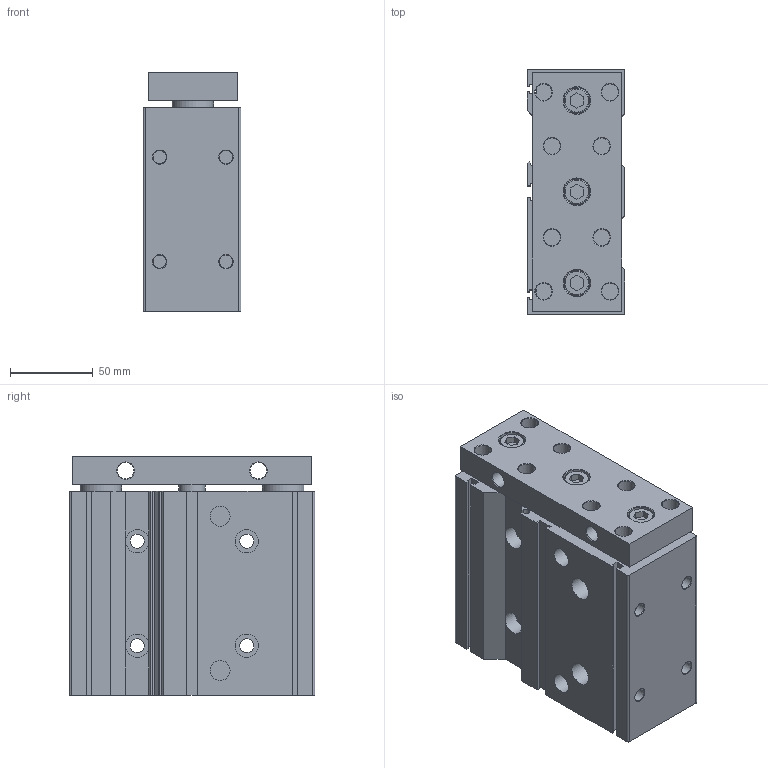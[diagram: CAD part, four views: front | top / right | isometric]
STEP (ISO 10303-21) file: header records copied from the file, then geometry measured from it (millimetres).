
FILE_DESCRIPTION((''),'2;1');
FILE_NAME('I:\3D電子目錄\氣缸\TB(U)\TB(U)50\TB50(U)\TB(U)5050.stp','2007-08-06T09:22:42',('Administrator'),(''),'Autodesk Inventor 2008','Autodesk Inventor 2008','');
FILE_SCHEMA(('AUTOMOTIVE_DESIGN { 1 0 10303 214 1 1 1 1 }'));
Length unit declared in the file: millimetre
Products named in the file (1): TB(U)50X50
Bounding box: 59 x 148 x 144 mm (x, y, z)
Volume: 1061079.2 mm3; surface area: 118243 mm2
Topology: 1 solids, 1 shells, 206 faces, 460 edges, 292 vertices
Faces by surface type: plane 106, cylinder 52, cone 37, bspline 8, torus 3
Full cylindrical faces by diameter (mm): 8 x4, 8.5 x4, 10 x18, 12 x2, 14 x4, 15 x3, 16 x4, 20 x2, 25 x2, 32 x2, 52 x1
Entity records: 5360 total; most frequent: CARTESIAN_POINT 945, DIRECTION 920, ORIENTED_EDGE 736, EDGE_CURVE 368, EDGE_LOOP 364, AXIS2_PLACEMENT_3D 353, VERTEX_POINT 290, VECTOR 214
